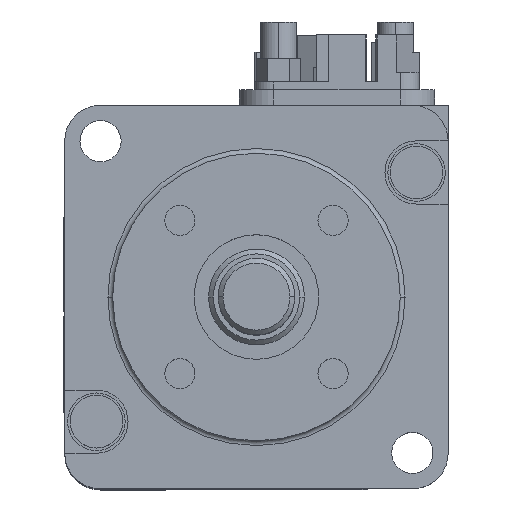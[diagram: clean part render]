
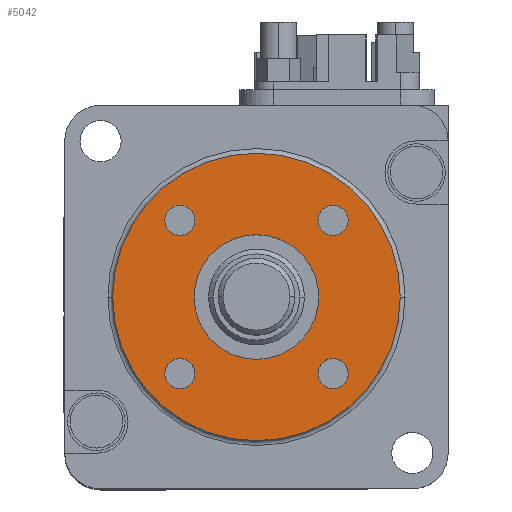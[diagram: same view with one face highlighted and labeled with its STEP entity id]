
A CAD part, top view. The second image highlights one B-rep face of the part: STEP entity #5042.
In plain terms, the highlighted planar face has unit normal (0, 0, 1).
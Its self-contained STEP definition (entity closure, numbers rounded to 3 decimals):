
#57 = PLANE ( 'NONE',  #729 ) ;
#102 = DIRECTION ( 'NONE',  ( 1., 0., 0. ) ) ;
#117 = DIRECTION ( 'NONE',  ( 0., 0., 1. ) ) ;
#203 = EDGE_LOOP ( 'NONE', ( #3118, #14622 ) ) ;
#310 = CIRCLE ( 'NONE', #6424, 1.574 ) ;
#508 = CIRCLE ( 'NONE', #13116, 15. ) ;
#610 = AXIS2_PLACEMENT_3D ( 'NONE', #3773, #12348, #5032 ) ;
#729 = AXIS2_PLACEMENT_3D ( 'NONE', #7439, #117, #8684 ) ;
#946 = ORIENTED_EDGE ( 'NONE', *, *, #14879, .F. ) ;
#1110 = EDGE_CURVE ( 'NONE', #3409, #11474, #10238, .T. ) ;
#1117 = CARTESIAN_POINT ( 'NONE',  ( 0., 0., 2.5 ) ) ;
#1360 = EDGE_CURVE ( 'NONE', #12462, #11075, #10206, .T. ) ;
#1400 = CIRCLE ( 'NONE', #11952, 6.5 ) ;
#1649 = FACE_BOUND ( 'NONE', #6407, .T. ) ;
#1747 = EDGE_CURVE ( 'NONE', #11474, #3409, #7879, .T. ) ;
#1794 = CARTESIAN_POINT ( 'NONE',  ( -6.5, 0., 2.5 ) ) ;
#2034 = FACE_BOUND ( 'NONE', #7666, .T. ) ;
#2262 = DIRECTION ( 'NONE',  ( 0., 0., 1. ) ) ;
#2304 = ORIENTED_EDGE ( 'NONE', *, *, #1360, .T. ) ;
#2335 = ORIENTED_EDGE ( 'NONE', *, *, #10837, .F. ) ;
#2348 = DIRECTION ( 'NONE',  ( 1., 0., 0. ) ) ;
#2485 = CIRCLE ( 'NONE', #2785, 6.5 ) ;
#2785 = AXIS2_PLACEMENT_3D ( 'NONE', #1117, #9676, #2348 ) ;
#2817 = VERTEX_POINT ( 'NONE', #1794 ) ;
#2941 = ORIENTED_EDGE ( 'NONE', *, *, #1110, .F. ) ;
#3061 = ORIENTED_EDGE ( 'NONE', *, *, #10091, .F. ) ;
#3118 = ORIENTED_EDGE ( 'NONE', *, *, #13741, .F. ) ;
#3204 = CARTESIAN_POINT ( 'NONE',  ( -7.99, 7.99, 2.5 ) ) ;
#3351 = AXIS2_PLACEMENT_3D ( 'NONE', #5866, #14407, #7086 ) ;
#3409 = VERTEX_POINT ( 'NONE', #11925 ) ;
#3419 = CARTESIAN_POINT ( 'NONE',  ( 0., 0., 2.5 ) ) ;
#3773 = CARTESIAN_POINT ( 'NONE',  ( 7.99, 7.99, 2.5 ) ) ;
#3785 = ORIENTED_EDGE ( 'NONE', *, *, #8607, .T. ) ;
#4074 = EDGE_LOOP ( 'NONE', ( #11838, #3061 ) ) ;
#4252 = CARTESIAN_POINT ( 'NONE',  ( -15., 0., 2.5 ) ) ;
#4424 = DIRECTION ( 'NONE',  ( 1., 0., 0. ) ) ;
#4454 = DIRECTION ( 'NONE',  ( 0., 0., 1. ) ) ;
#4646 = DIRECTION ( 'NONE',  ( 1., 0., 0. ) ) ;
#4773 = CARTESIAN_POINT ( 'NONE',  ( 9.564, 7.99, 2.5 ) ) ;
#4814 = CIRCLE ( 'NONE', #5795, 1.574 ) ;
#4927 = CIRCLE ( 'NONE', #7253, 1.574 ) ;
#5032 = DIRECTION ( 'NONE',  ( 1., 0., 0. ) ) ;
#5042 = ADVANCED_FACE ( 'NONE', ( #14640, #1649, #2034, #11403, #14266, #11003 ), #57, .T. ) ;
#5174 = VERTEX_POINT ( 'NONE', #13802 ) ;
#5379 = EDGE_CURVE ( 'NONE', #5750, #9227, #7968, .T. ) ;
#5668 = CIRCLE ( 'NONE', #8139, 1.574 ) ;
#5675 = VERTEX_POINT ( 'NONE', #11612 ) ;
#5750 = VERTEX_POINT ( 'NONE', #15391 ) ;
#5776 = DIRECTION ( 'NONE',  ( 0., 0., 1. ) ) ;
#5795 = AXIS2_PLACEMENT_3D ( 'NONE', #3204, #11778, #4424 ) ;
#5866 = CARTESIAN_POINT ( 'NONE',  ( 7.99, 7.99, 2.5 ) ) ;
#5885 = ORIENTED_EDGE ( 'NONE', *, *, #5379, .F. ) ;
#6238 = DIRECTION ( 'NONE',  ( 0., 0., 1. ) ) ;
#6407 = EDGE_LOOP ( 'NONE', ( #946, #9812 ) ) ;
#6424 = AXIS2_PLACEMENT_3D ( 'NONE', #13076, #5776, #14309 ) ;
#6508 = EDGE_CURVE ( 'NONE', #11281, #5174, #7912, .T. ) ;
#6869 = CARTESIAN_POINT ( 'NONE',  ( -7.99, -7.99, 2.5 ) ) ;
#7086 = DIRECTION ( 'NONE',  ( 1., 0., 0. ) ) ;
#7253 = AXIS2_PLACEMENT_3D ( 'NONE', #6869, #15417, #8108 ) ;
#7422 = DIRECTION ( 'NONE',  ( 0., 0., 1. ) ) ;
#7437 = CARTESIAN_POINT ( 'NONE',  ( 15., 0., 2.5 ) ) ;
#7439 = CARTESIAN_POINT ( 'NONE',  ( 0., 0., 2.5 ) ) ;
#7488 = AXIS2_PLACEMENT_3D ( 'NONE', #11807, #4454, #13034 ) ;
#7666 = EDGE_LOOP ( 'NONE', ( #2335, #5885 ) ) ;
#7879 = CIRCLE ( 'NONE', #610, 1.574 ) ;
#7912 = CIRCLE ( 'NONE', #11735, 1.574 ) ;
#7968 = CIRCLE ( 'NONE', #7488, 1.574 ) ;
#8108 = DIRECTION ( 'NONE',  ( 1., 0., 0. ) ) ;
#8139 = AXIS2_PLACEMENT_3D ( 'NONE', #14735, #7422, #102 ) ;
#8607 = EDGE_CURVE ( 'NONE', #11075, #12462, #508, .T. ) ;
#8684 = DIRECTION ( 'NONE',  ( 1., 0., 0. ) ) ;
#8871 = CARTESIAN_POINT ( 'NONE',  ( -9.564, -7.99, 2.5 ) ) ;
#9209 = AXIS2_PLACEMENT_3D ( 'NONE', #9273, #15410, #13147 ) ;
#9227 = VERTEX_POINT ( 'NONE', #13463 ) ;
#9273 = CARTESIAN_POINT ( 'NONE',  ( 0., 0., 2.5 ) ) ;
#9403 = VERTEX_POINT ( 'NONE', #12569 ) ;
#9602 = CARTESIAN_POINT ( 'NONE',  ( 0., 0., 2.5 ) ) ;
#9676 = DIRECTION ( 'NONE',  ( 0., 0., 1. ) ) ;
#9812 = ORIENTED_EDGE ( 'NONE', *, *, #15352, .F. ) ;
#10091 = EDGE_CURVE ( 'NONE', #5174, #11281, #5668, .T. ) ;
#10206 = CIRCLE ( 'NONE', #9209, 15. ) ;
#10238 = CIRCLE ( 'NONE', #3351, 1.574 ) ;
#10815 = DIRECTION ( 'NONE',  ( 1., 0., 0. ) ) ;
#10837 = EDGE_CURVE ( 'NONE', #9227, #5750, #4814, .T. ) ;
#11003 = FACE_OUTER_BOUND ( 'NONE', #13700, .T. ) ;
#11075 = VERTEX_POINT ( 'NONE', #7437 ) ;
#11281 = VERTEX_POINT ( 'NONE', #15287 ) ;
#11403 = FACE_BOUND ( 'NONE', #11757, .T. ) ;
#11474 = VERTEX_POINT ( 'NONE', #4773 ) ;
#11612 = CARTESIAN_POINT ( 'NONE',  ( 6.5, 0., 2.5 ) ) ;
#11735 = AXIS2_PLACEMENT_3D ( 'NONE', #13537, #6238, #14766 ) ;
#11757 = EDGE_LOOP ( 'NONE', ( #13183, #2941 ) ) ;
#11778 = DIRECTION ( 'NONE',  ( 0., 0., 1. ) ) ;
#11807 = CARTESIAN_POINT ( 'NONE',  ( -7.99, 7.99, 2.5 ) ) ;
#11838 = ORIENTED_EDGE ( 'NONE', *, *, #6508, .F. ) ;
#11925 = CARTESIAN_POINT ( 'NONE',  ( 6.416, 7.99, 2.5 ) ) ;
#11952 = AXIS2_PLACEMENT_3D ( 'NONE', #3419, #11992, #4646 ) ;
#11992 = DIRECTION ( 'NONE',  ( 0., 0., 1. ) ) ;
#12348 = DIRECTION ( 'NONE',  ( 0., 0., 1. ) ) ;
#12462 = VERTEX_POINT ( 'NONE', #4252 ) ;
#12569 = CARTESIAN_POINT ( 'NONE',  ( -6.416, -7.99, 2.5 ) ) ;
#12595 = EDGE_CURVE ( 'NONE', #2817, #5675, #1400, .T. ) ;
#13034 = DIRECTION ( 'NONE',  ( 1., 0., 0. ) ) ;
#13076 = CARTESIAN_POINT ( 'NONE',  ( -7.99, -7.99, 2.5 ) ) ;
#13116 = AXIS2_PLACEMENT_3D ( 'NONE', #9602, #2262, #10815 ) ;
#13147 = DIRECTION ( 'NONE',  ( 1., 0., 0. ) ) ;
#13183 = ORIENTED_EDGE ( 'NONE', *, *, #1747, .F. ) ;
#13463 = CARTESIAN_POINT ( 'NONE',  ( -6.416, 7.99, 2.5 ) ) ;
#13537 = CARTESIAN_POINT ( 'NONE',  ( 7.99, -7.99, 2.5 ) ) ;
#13700 = EDGE_LOOP ( 'NONE', ( #2304, #3785 ) ) ;
#13741 = EDGE_CURVE ( 'NONE', #5675, #2817, #2485, .T. ) ;
#13802 = CARTESIAN_POINT ( 'NONE',  ( 6.416, -7.99, 2.5 ) ) ;
#14266 = FACE_BOUND ( 'NONE', #203, .T. ) ;
#14309 = DIRECTION ( 'NONE',  ( 1., 0., 0. ) ) ;
#14407 = DIRECTION ( 'NONE',  ( 0., 0., 1. ) ) ;
#14476 = VERTEX_POINT ( 'NONE', #8871 ) ;
#14622 = ORIENTED_EDGE ( 'NONE', *, *, #12595, .F. ) ;
#14640 = FACE_BOUND ( 'NONE', #4074, .T. ) ;
#14735 = CARTESIAN_POINT ( 'NONE',  ( 7.99, -7.99, 2.5 ) ) ;
#14766 = DIRECTION ( 'NONE',  ( 1., 0., 0. ) ) ;
#14879 = EDGE_CURVE ( 'NONE', #9403, #14476, #310, .T. ) ;
#15287 = CARTESIAN_POINT ( 'NONE',  ( 9.564, -7.99, 2.5 ) ) ;
#15352 = EDGE_CURVE ( 'NONE', #14476, #9403, #4927, .T. ) ;
#15391 = CARTESIAN_POINT ( 'NONE',  ( -9.564, 7.99, 2.5 ) ) ;
#15410 = DIRECTION ( 'NONE',  ( 0., 0., 1. ) ) ;
#15417 = DIRECTION ( 'NONE',  ( 0., 0., 1. ) ) ;
